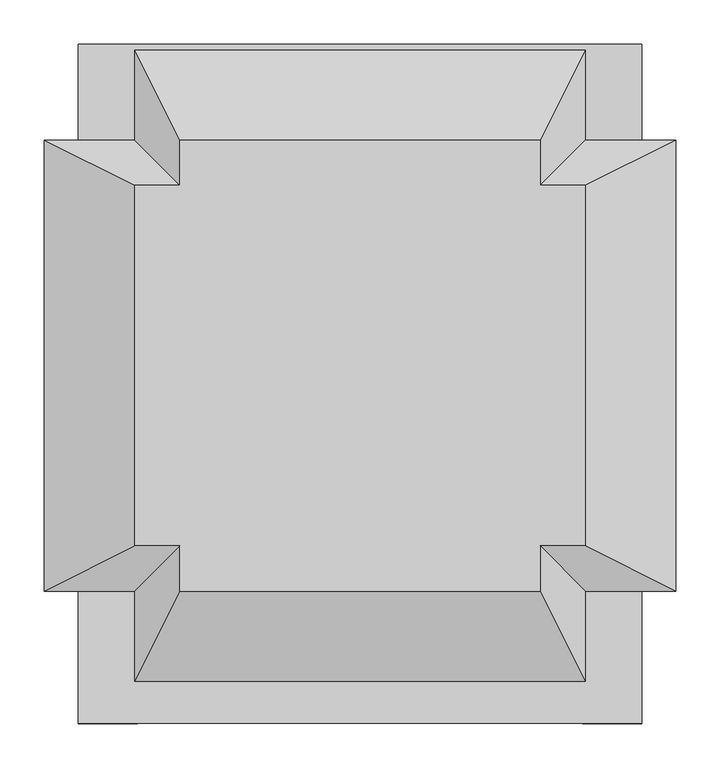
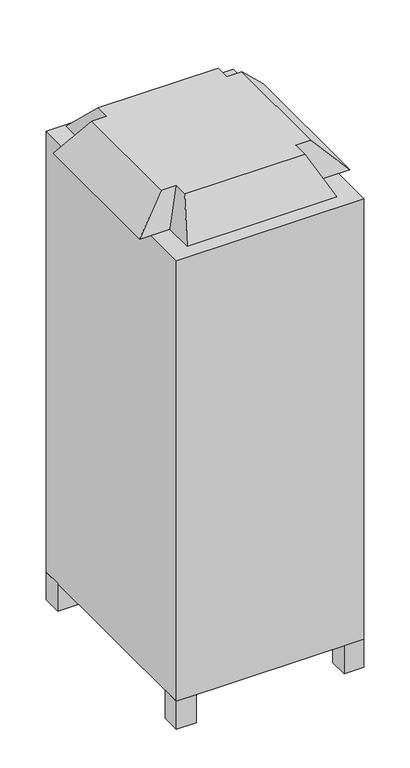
"""IFC4 building model written with IfcOpenShell, lengths in millimetres: proxy geometry, Condenser-Daikin-RXYQ5-8-10-12P : INVALID TYPE - Use Load Family and Type Catalog Instead."""

import ifcopenshell
import ifcopenshell.guid

model = None  # the IFC model being written
_history = None  # IfcOwnerHistory: only IFC2X3 demands one
_inside = {}  # id of a spatial element -> (the spatial element, [elements in it])
_under = {}  # id of a project, library or spatial element -> (it, [spatial elements below it])
_declared = {}  # id of a project -> (the project, [libraries it declares])
_typed = {}  # id of a type object -> (the type object, [elements of that type])
_made_of = {}  # id of a material, layer set ... -> (it, [elements and type objects made of it])


def new_model(schema):
    """Start an empty IFC model of exactly this schema.

    Asked for "IFC4X3", IfcOpenShell would pick the latest addendum, in which some entities
    have other attributes; the version numbers below select the first issue.
    IFC2X3 requires an IfcOwnerHistory on every rooted entity: one is made here for all.
    """
    global model, _history
    if schema == "IFC4X3":
        model = ifcopenshell.file(schema_version=(4, 3, 0, 0))
    else:
        model = ifcopenshell.file(schema=schema)
    _inside.clear()
    _under.clear()
    _declared.clear()
    _typed.clear()
    _made_of.clear()
    _history = None
    if model.schema == "IFC2X3":
        org = make("IfcOrganization", Name="unknown")
        user = make(
            "IfcPersonAndOrganization",
            ThePerson=make("IfcPerson", FamilyName="unknown"),
            TheOrganization=org,
        )
        app = make(
            "IfcApplication",
            ApplicationDeveloper=org,
            Version="unknown",
            ApplicationFullName="unknown",
            ApplicationIdentifier="unknown",
        )
        _history = make(
            "IfcOwnerHistory",
            OwningUser=user,
            OwningApplication=app,
            ChangeAction="ADDED",
            CreationDate=0,
        )
    return model


def make(cls, **values):
    """One entity of the class cls with the attributes given. An attribute that is None is left unset."""
    return model.create_entity(
        cls, **{name: value for name, value in values.items() if value is not None}
    )


def rooted(cls, **values):
    """An entity with a GlobalId (a new one), such as an element, a storey or a relation."""
    return make(cls, GlobalId=ifcopenshell.guid.new(), OwnerHistory=_history, **values)


def si_unit(unit_type, name, prefix=None):
    """IfcSIUnit, for example si_unit("LENGTHUNIT", "METRE", prefix="MILLI")."""
    return make("IfcSIUnit", UnitType=unit_type, Prefix=prefix, Name=name)


def assignment(units):
    """IfcUnitAssignment: the units of a project."""
    return None if units is None else make("IfcUnitAssignment", Units=units)


def point(xyz):
    """IfcCartesianPoint."""
    return None if xyz is None else make("IfcCartesianPoint", Coordinates=xyz)


def direction(xyz):
    """IfcDirection."""
    return None if xyz is None else make("IfcDirection", DirectionRatios=xyz)


def frame(location, z_axis=None, x_axis=None):
    """IfcAxis2Placement3D, a coordinate frame: its origin and axes. An axis left out is left unset."""
    return make(
        "IfcAxis2Placement3D",
        Location=point(location),
        Axis=direction(z_axis),
        RefDirection=direction(x_axis),
    )


def frame_2d(location, x_axis=None):
    """IfcAxis2Placement2D, a coordinate frame in the plane: its origin and x axis."""
    return make(
        "IfcAxis2Placement2D", Location=point(location), RefDirection=direction(x_axis)
    )


def origin():
    """The frame at (0, 0, 0) with its axes left unset."""
    return frame((0.0, 0.0, 0.0))


def origin_with_axes():
    """The frame at (0, 0, 0) with the z axis (0, 0, 1) and the x axis (1, 0, 0) written out."""
    return frame((0.0, 0.0, 0.0), z_axis=(0.0, 0.0, 1.0), x_axis=(1.0, 0.0, 0.0))


def place(relative_to, where):
    """IfcLocalPlacement: puts the frame where relative to a parent placement (None: the world)."""
    return make(
        "IfcLocalPlacement", PlacementRelTo=relative_to, RelativePlacement=where
    )


def context(
    kind, dimensions, precision=None, world=None, true_north=None, identifier=None
):
    """IfcGeometricRepresentationContext, for example the 3D "Model" context."""
    return make(
        "IfcGeometricRepresentationContext",
        ContextIdentifier=identifier,
        ContextType=kind,
        CoordinateSpaceDimension=dimensions,
        Precision=precision,
        WorldCoordinateSystem=world,
        TrueNorth=true_north,
    )


def project(units=None, contexts=None):
    """IfcProject with its units and contexts."""
    return rooted(
        "IfcProject",
        Name="project",
        RepresentationContexts=contexts,
        UnitsInContext=assignment(units),
    )


def spatial(cls, under=None, at=None, **own):
    """A site, building, storey or space (cls), placed at a placement, below another one or the project."""
    s = rooted(cls, ObjectPlacement=at, **own)
    if under is not None:
        _under.setdefault(under.id(), (under, []))[1].append(s)
    return s


def polyline(points):
    """IfcPolyline through the points."""
    return make("IfcPolyline", Points=[point(p) for p in points])


def circle_curve(where, radius):
    """IfcCircle in the frame where."""
    return make("IfcCircle", Position=where, Radius=radius)


def trimmed(basis, trim1, trim2, sense, master):
    """IfcTrimmedCurve: the piece of a basis curve between two trims."""
    return make(
        "IfcTrimmedCurve",
        BasisCurve=basis,
        Trim1=trim1,
        Trim2=trim2,
        SenseAgreement=sense,
        MasterRepresentation=master,
    )


def segment(curve, same_sense, transition):
    """IfcCompositeCurveSegment."""
    return make(
        "IfcCompositeCurveSegment",
        Transition=transition,
        SameSense=same_sense,
        ParentCurve=curve,
    )


def composite_curve(segments, self_intersect=None):
    """IfcCompositeCurve: segments joined end to end."""
    return make("IfcCompositeCurve", Segments=segments, SelfIntersect=self_intersect)


def outline(outer, holes=None, kind="AREA"):
    """IfcArbitraryClosedProfileDef: a profile drawn as a closed curve; with holes, ...WithVoids."""
    if holes is None:
        return make("IfcArbitraryClosedProfileDef", ProfileType=kind, OuterCurve=outer)
    return make(
        "IfcArbitraryProfileDefWithVoids",
        ProfileType=kind,
        OuterCurve=outer,
        InnerCurves=holes,
    )


def extrude(swept, where, along, depth):
    """IfcExtrudedAreaSolid: the profile swept, set in the frame where, extruded along a direction by depth."""
    return make(
        "IfcExtrudedAreaSolid",
        SweptArea=swept,
        Position=where,
        ExtrudedDirection=direction(along),
        Depth=depth,
    )


def faces_of(points, faces, orient=None, outer=None):
    """IfcFace entities. A face is a list of loops; a loop is a list of indices into points, from 0.

    orient and outer hold one flag for each loop. By default every Orientation is true, the
    first loop of a face is its IfcFaceOuterBound and the others are IfcFaceBound.
    """
    made = []
    for i, loops in enumerate(faces):
        bounds = []
        for j, loop in enumerate(loops):
            is_outer = j == 0 if outer is None else outer[i][j]
            bounds.append(
                make(
                    "IfcFaceOuterBound" if is_outer else "IfcFaceBound",
                    Bound=make("IfcPolyLoop", Polygon=[points[k] for k in loop]),
                    Orientation=True if orient is None else orient[i][j],
                )
            )
        made.append(make("IfcFace", Bounds=bounds))
    return made


def faceted_brep(points, faces, orient=None, outer=None, voids=None):
    """IfcFacetedBrep: a solid bounded by flat faces; with voids (closed shells), ...WithVoids."""
    shared = [point(p) for p in points]
    hull = make("IfcClosedShell", CfsFaces=faces_of(shared, faces, orient, outer))
    if voids is None:
        return make("IfcFacetedBrep", Outer=hull)
    return make(
        "IfcFacetedBrepWithVoids",
        Outer=hull,
        Voids=[
            make(cls, CfsFaces=faces_of(shared, fs, o, b)) for cls, fs, o, b in voids
        ],
    )


def shape(context_of_items, identifier, shape_type, items):
    """IfcShapeRepresentation: the items that make up one representation, for example the "Body"."""
    return make(
        "IfcShapeRepresentation",
        ContextOfItems=context_of_items,
        RepresentationIdentifier=identifier,
        RepresentationType=shape_type,
        Items=items,
    )


def source(mapping_origin, context_of_items, identifier, shape_type, items):
    """IfcRepresentationMap: a shape defined once, which mapped items show again and again."""
    return make(
        "IfcRepresentationMap",
        MappingOrigin=mapping_origin,
        MappedRepresentation=shape(context_of_items, identifier, shape_type, items),
    )


def transform(
    local_origin,
    x_axis=None,
    y_axis=None,
    z_axis=None,
    scale=None,
    scale2=None,
    scale3=None,
    uniform=True,
):
    """IfcCartesianTransformationOperator3D, or its non-uniform kind. x_axis, y_axis, z_axis: its Axis1, 2, 3."""
    if uniform:
        return make(
            "IfcCartesianTransformationOperator3D",
            Axis1=direction(x_axis),
            Axis2=direction(y_axis),
            LocalOrigin=point(local_origin),
            Scale=scale,
            Axis3=direction(z_axis),
        )
    return make(
        "IfcCartesianTransformationOperator3DnonUniform",
        Axis1=direction(x_axis),
        Axis2=direction(y_axis),
        LocalOrigin=point(local_origin),
        Scale=scale,
        Axis3=direction(z_axis),
        Scale2=scale2,
        Scale3=scale3,
    )


def mapped(mapping_source, mapping_target):
    """IfcMappedItem: shows the shape of a source again, moved by a transform."""
    return make(
        "IfcMappedItem", MappingSource=mapping_source, MappingTarget=mapping_target
    )


def made_of(thing, what):
    """Note that an element or type object is made of a material, layer set ...; save() writes the relation."""
    if what is not None:
        _made_of.setdefault(what.id(), (what, []))[1].append(thing)
    return thing


def element(
    cls,
    number,
    at=None,
    inside=None,
    cuts=None,
    type_object=None,
    material=None,
    context=None,
    identifier="Body",
    shape_type=None,
    held_by="IfcProductDefinitionShape",
    body=None,
    shapes=None,
    **own,
):
    """One element of the class cls, such as IfcWall. Its Tag is "e" and its number.

    at: its placement. inside: the storey or other place that contains it. cuts: it is an
    opening in that element (IfcRelVoidsElement). A single representation is given by context,
    identifier, shape_type and body (its items); several are given by shapes. held_by: the class
    of the entity that holds the representations. save() writes the other relations.
    """
    e = rooted(cls, Tag="e%d" % number, ObjectPlacement=at, **own)
    if body is not None:
        shapes = [shape(context, identifier, shape_type, body)]
    if shapes is not None:
        e.Representation = make(held_by, Representations=shapes)
    if inside is not None:
        _inside.setdefault(inside.id(), (inside, []))[1].append(e)
    if cuts is not None:
        rooted(
            "IfcRelVoidsElement", RelatingBuildingElement=cuts, RelatedOpeningElement=e
        )
    if type_object is not None:
        _typed.setdefault(type_object.id(), (type_object, []))[1].append(e)
    return made_of(e, material)


def aggregate(whole, parts):
    """IfcRelAggregates: a whole, such as a stair, and the parts it consists of."""
    return rooted("IfcRelAggregates", RelatingObject=whole, RelatedObjects=parts)


def save(model, path):
    """Write the relations noted so far, then the file.

    IfcRelAggregates (storeys below a building ...), IfcRelContainedInSpatialStructure (elements
    in a storey), IfcRelDefinesByType, IfcRelAssociatesMaterial and IfcRelDeclares: one each for
    every whole, place, type object, material and project.
    """
    for whole, parts in _under.values():
        aggregate(whole, parts)
    for where, things in _inside.values():
        rooted(
            "IfcRelContainedInSpatialStructure",
            RelatedElements=things,
            RelatingStructure=where,
        )
    for kind, things in _typed.values():
        rooted("IfcRelDefinesByType", RelatedObjects=things, RelatingType=kind)
    for what, things in _made_of.values():
        rooted("IfcRelAssociatesMaterial", RelatedObjects=things, RelatingMaterial=what)
    for by, libraries in _declared.values():
        rooted("IfcRelDeclares", RelatingContext=by, RelatedDefinitions=libraries)
    model.write(path)


def mechanical_equipment_0a6ad74e(model_context):
    return source(origin(), model_context, "Body", "SolidModel", [
        faceted_brep([(203.2, 274.55, 1789.6), (-203.2, 274.55, 1789.6), (-203.2, 223.75, 1789.6), (-254.0, 223.75, 1789.6), (-254.0, -182.65, 1789.6), (-203.2, -182.65, 1789.6), (-203.2, -233.45, 1789.6), (203.2, -233.45, 1789.6), (203.2, -182.65, 1789.6), (254.0, -182.65, 1789.6), (254.0, 223.75, 1789.6), (203.2, 223.75, 1789.6), (254.0, 376.15, 1680.0), (254.0, 274.55, 1680.0), (355.6, 274.55, 1680.0), (355.6, -233.45, 1680.0), (254.0, -233.45, 1680.0), (254.0, -335.05, 1680.0), (-254.0, -335.05, 1680.0), (-254.0, -233.45, 1680.0), (-355.6, -233.45, 1680.0), (-355.6, 274.55, 1680.0), (-254.0, 274.55, 1680.0), (-254.0, 376.15, 1680.0)], [[[0, 1, 2, 3, 4, 5, 6, 7, 8, 9, 10, 11]], [[12, 13, 14, 15, 16, 17, 18, 19, 20, 21, 22, 23]], [[12, 23, 1, 0]], [[23, 22, 2, 1]], [[22, 21, 3, 2]], [[21, 20, 4, 3]], [[20, 19, 5, 4]], [[19, 18, 6, 5]], [[18, 17, 7, 6]], [[17, 16, 8, 7]], [[16, 15, 9, 8]], [[15, 14, 10, 9]], [[14, 13, 11, 10]], [[13, 12, 0, 11]]]),
        extrude(outline(polyline([(-250.8, 315.8), (-317.5, 315.8), (-317.5, 382.5), (-250.8, 382.5), (-250.8, 315.8)])), origin_with_axes(), (0.0, 0.0, 1.0), 100.0252),
        extrude(outline(polyline([(317.5, 315.8), (250.8, 315.8), (250.8, 382.5), (317.5, 382.5), (317.5, 315.8)])), origin_with_axes(), (0.0, 0.0, 1.0), 100.0252),
        extrude(outline(polyline([(317.5, -382.5), (250.8, -382.5), (250.8, -315.8), (317.5, -315.8), (317.5, -382.5)])), origin_with_axes(), (0.0, 0.0, 1.0), 100.0252),
        extrude(outline(polyline([(-250.8, -382.5), (-317.5, -382.5), (-317.5, -315.8), (-250.8, -315.8), (-250.8, -382.5)])), origin_with_axes(), (0.0, 0.0, 1.0), 100.0252),
        extrude(outline(polyline([(317.5, -382.5), (-317.5, -382.5), (-317.5, 382.5), (317.5, 382.5), (317.5, -382.5)])), frame((0.0, 0.0, 100.0252), z_axis=(0.0, 0.0, 1.0), x_axis=(1.0, 0.0, 0.0)), (0.0, 0.0, 1.0), 1579.9748),
        extrude(outline(composite_curve([segment(trimmed(circle_curve(frame_2d((-76.196163, -183.996163)), 9.525), [point((-85.721163, -183.996163))], [point((-66.671163, -183.996163))], False, "CARTESIAN"), True, "CONTINUOUS"), segment(trimmed(circle_curve(frame_2d((-76.196163, -183.996163)), 9.525), [point((-66.671163, -183.996163))], [point((-85.721163, -183.996163))], False, "CARTESIAN"), True, "CONTINUOUS")], self_intersect=False)), frame((0.0, 0.0, 61.9252), z_axis=(0.0, 0.0, 1.0), x_axis=(1.0, 0.0, 0.0)), (0.0, 0.0, 1.0), 38.1),
        extrude(outline(composite_curve([segment(trimmed(circle_curve(frame_2d((-161.903837, -269.803837)), 9.525), [point((-171.428837, -269.803837))], [point((-152.378837, -269.803837))], False, "CARTESIAN"), True, "CONTINUOUS"), segment(trimmed(circle_curve(frame_2d((-161.903837, -269.803837)), 9.525), [point((-152.378837, -269.803837))], [point((-171.428837, -269.803837))], False, "CARTESIAN"), True, "CONTINUOUS")], self_intersect=False)), frame((0.0, 0.0, 61.9252), z_axis=(0.0, 0.0, 1.0), x_axis=(1.0, 0.0, 0.0)), (0.0, 0.0, 1.0), 38.1),
    ])


if __name__ == "__main__":
    model = new_model("IFC4")
    model_context = context("Model", 3, world=origin())
    ifc_project = project(units=[si_unit("LENGTHUNIT", "METRE", prefix="MILLI")], contexts=[model_context])
    site = spatial("IfcSite", under=ifc_project)
    building = spatial("IfcBuilding", under=site)
    placement = place(None, origin())
    mechanical_equipment_shape = mechanical_equipment_0a6ad74e(model_context)
    element("IfcBuildingElementProxy", 1, Name="Condenser-Daikin-RXYQ5-8-10-12P : INVALID TYPE - Use Load Family and Type Catalog Instead", ObjectType="Condenser-Daikin-RXYQ5-8-10-12P : INVALID TYPE - Use Load Family and Type Catalog Instead", at=placement, inside=building, context=model_context, shape_type="MappedRepresentation", body=[
        mapped(mechanical_equipment_shape, transform((0.0, 0.0, 0.0), x_axis=(1.0, 0.0, 0.0), y_axis=(0.0, 1.0, 0.0), z_axis=(0.0, 0.0, 1.0))),
    ])
    save(model, "model.ifc")
